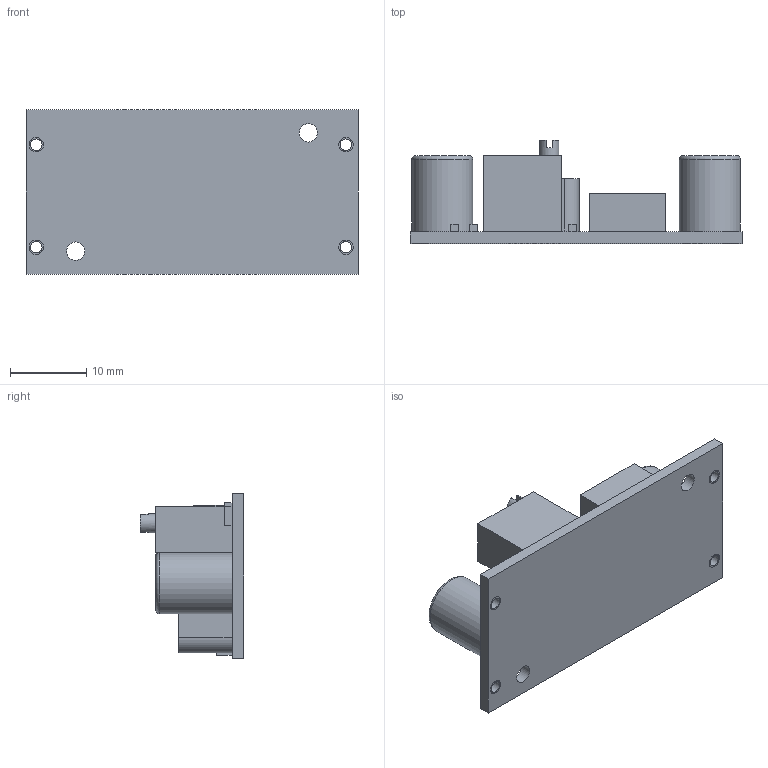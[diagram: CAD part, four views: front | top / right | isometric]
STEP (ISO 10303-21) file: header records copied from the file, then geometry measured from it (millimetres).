
FILE_DESCRIPTION(('FreeCAD Model'),'2;1');
FILE_NAME('Open CASCADE Shape Model','2023-05-06T18:44:57',('Author'),( ''),'Open CASCADE STEP processor 7.5','FreeCAD','Unknown');
FILE_SCHEMA(('AUTOMOTIVE_DESIGN { 1 0 10303 214 1 1 1 1 }'));
Length unit declared in the file: millimetre
Products named in the file (1): DC-DC_down 27-0V 2A
Bounding box: 43.5 x 13.5 x 21.5 mm (x, y, z)
Volume: 4533.9 mm3; surface area: 4570 mm2
Topology: 18 solids, 18 shells, 141 faces, 292 edges, 197 vertices
Faces by surface type: plane 114, cylinder 22, torus 3, cone 2
Full cylindrical faces by diameter (mm): 1.5 x4, 2.4 x2, 2.5 x1, 8 x2, 9 x1
Entity records: 5221 total; most frequent: DIRECTION 616, CARTESIAN_POINT 606, ORIENTED_EDGE 544, EDGE_CURVE 272, VECTOR 212, LINE 212, AXIS2_PLACEMENT_3D 202, VERTEX_POINT 192
